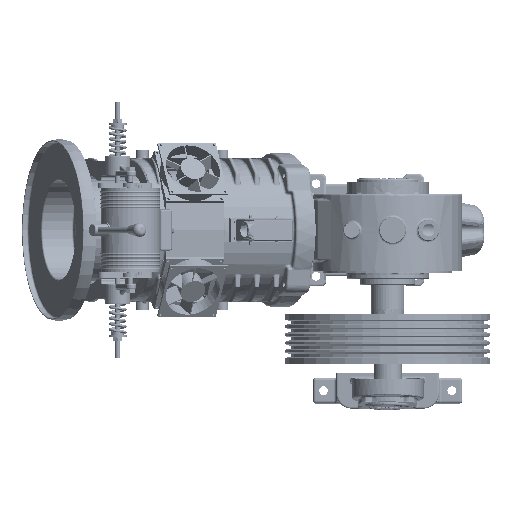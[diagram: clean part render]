
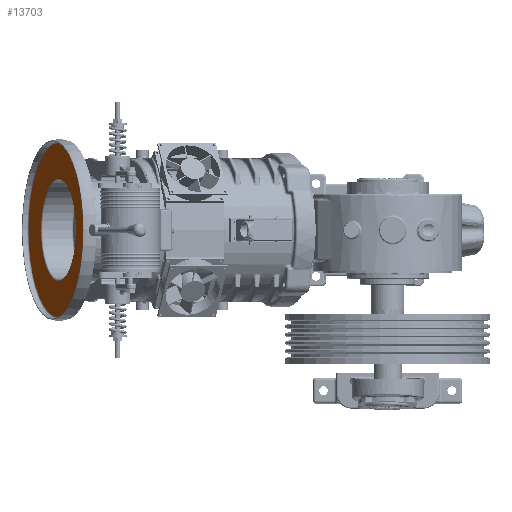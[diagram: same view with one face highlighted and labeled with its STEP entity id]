
A CAD part, left-side view. The second image highlights one B-rep face of the part: STEP entity #13703.
In plain terms, the highlighted planar face has unit normal (-0.342, 0.94, 0).
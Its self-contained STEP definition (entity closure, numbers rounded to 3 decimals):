
#6615 = CARTESIAN_POINT ( 'NONE',  ( -263.483, 479.943, 0. ) ) ;
#9041 = CIRCLE ( 'NONE', #151290, 169.5 ) ;
#13703 = ADVANCED_FACE ( 'NONE', ( #119868, #140216 ), #43450, .F. ) ;
#14868 = CARTESIAN_POINT ( 'NONE',  ( -263.483, 479.943, -99.5 ) ) ;
#23184 = DIRECTION ( 'NONE',  ( 0.342, -0.94, 0. ) ) ;
#23994 = VERTEX_POINT ( 'NONE', #232675 ) ;
#26293 = EDGE_LOOP ( 'NONE', ( #243767, #71526 ) ) ;
#27908 = EDGE_LOOP ( 'NONE', ( #83951, #80114 ) ) ;
#38803 = DIRECTION ( 'NONE',  ( 0., 0., -1. ) ) ;
#40746 = CIRCLE ( 'NONE', #178998, 169.5 ) ;
#43450 = PLANE ( 'NONE',  #45622 ) ;
#45622 = AXIS2_PLACEMENT_3D ( 'NONE', #138977, #81693, #57530 ) ;
#57530 = DIRECTION ( 'NONE',  ( 0., 0., -1. ) ) ;
#58555 = VERTEX_POINT ( 'NONE', #231778 ) ;
#69461 = CARTESIAN_POINT ( 'NONE',  ( -263.483, 479.943, 0. ) ) ;
#71526 = ORIENTED_EDGE ( 'NONE', *, *, #92881, .T. ) ;
#78279 = DIRECTION ( 'NONE',  ( -0.342, 0.94, 0. ) ) ;
#80114 = ORIENTED_EDGE ( 'NONE', *, *, #198552, .T. ) ;
#81693 = DIRECTION ( 'NONE',  ( 0.342, -0.94, 0. ) ) ;
#83951 = ORIENTED_EDGE ( 'NONE', *, *, #153935, .T. ) ;
#92881 = EDGE_CURVE ( 'NONE', #23994, #164834, #215865, .T. ) ;
#115395 = DIRECTION ( 'NONE',  ( 0., 0., -1. ) ) ;
#119868 = FACE_BOUND ( 'NONE', #26293, .T. ) ;
#123731 = DIRECTION ( 'NONE',  ( 0., 0., -1. ) ) ;
#123870 = CARTESIAN_POINT ( 'NONE',  ( -263.483, 479.943, -169.5 ) ) ;
#126552 = AXIS2_PLACEMENT_3D ( 'NONE', #6615, #23184, #178452 ) ;
#130737 = VERTEX_POINT ( 'NONE', #123870 ) ;
#138977 = CARTESIAN_POINT ( 'NONE',  ( -354.163, 446.938, 0. ) ) ;
#140216 = FACE_OUTER_BOUND ( 'NONE', #27908, .T. ) ;
#148209 = CIRCLE ( 'NONE', #229896, 99.5 ) ;
#151290 = AXIS2_PLACEMENT_3D ( 'NONE', #69461, #78279, #38803 ) ;
#153935 = EDGE_CURVE ( 'NONE', #130737, #58555, #40746, .T. ) ;
#164834 = VERTEX_POINT ( 'NONE', #14868 ) ;
#169087 = EDGE_CURVE ( 'NONE', #164834, #23994, #148209, .T. ) ;
#178452 = DIRECTION ( 'NONE',  ( 0., 0., -1. ) ) ;
#178998 = AXIS2_PLACEMENT_3D ( 'NONE', #229883, #213299, #115395 ) ;
#179738 = DIRECTION ( 'NONE',  ( 0.342, -0.94, 0. ) ) ;
#196319 = CARTESIAN_POINT ( 'NONE',  ( -263.483, 479.943, 0. ) ) ;
#198552 = EDGE_CURVE ( 'NONE', #58555, #130737, #9041, .T. ) ;
#213299 = DIRECTION ( 'NONE',  ( -0.342, 0.94, 0. ) ) ;
#215865 = CIRCLE ( 'NONE', #126552, 99.5 ) ;
#229883 = CARTESIAN_POINT ( 'NONE',  ( -263.483, 479.943, 0. ) ) ;
#229896 = AXIS2_PLACEMENT_3D ( 'NONE', #196319, #179738, #123731 ) ;
#231778 = CARTESIAN_POINT ( 'NONE',  ( -263.483, 479.943, 169.5 ) ) ;
#232675 = CARTESIAN_POINT ( 'NONE',  ( -263.483, 479.943, 99.5 ) ) ;
#243767 = ORIENTED_EDGE ( 'NONE', *, *, #169087, .T. ) ;
